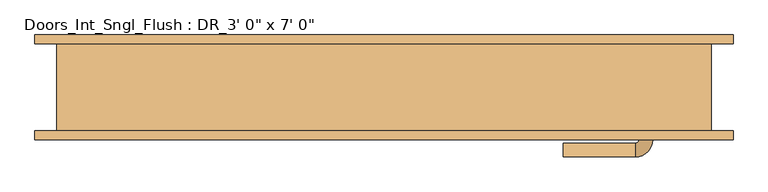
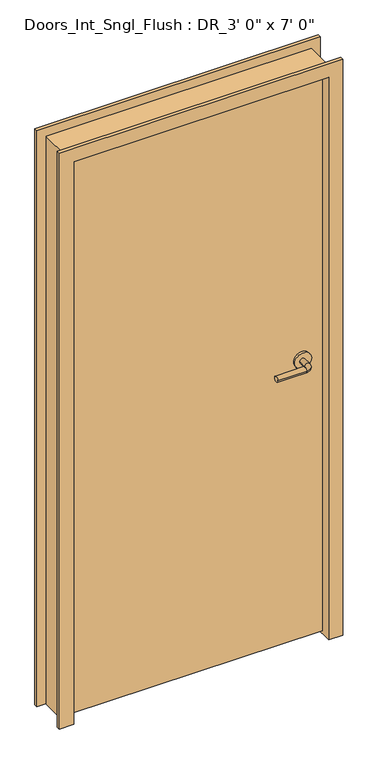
"""IFC4 building model written with IfcOpenShell, lengths in millimetres: door geometry."""

from ifc_helpers import new_model, si_unit, point, frame, frame_2d, origin, place, context, project, spatial, polyline, circle_curve, ellipse_curve, trimmed, segment, composite_curve, outline, extrude, faceted_brep, source, transform, mapped, element, save
from ifc_brep_helpers import plane_surface, cylinder_surface, revolved_surface, advanced_brep


def door_4583cae6(model_context):
    return source(origin(), model_context, "Body", "SolidModel", [
        advanced_brep(
        [(391.0, -46.1, 1066.8), (371.0, -46.1, 1066.8), (391.0, -76.1, 1066.8), (371.0, -76.1, 1066.8), (366.0, -81.1, 1066.8), (366.0, -101.1, 1066.8), (261.0, -101.1, 1066.8), (261.0, -81.1, 1066.8)],
        [
            (0, 1, circle_curve(frame((381.0, -46.1, 1066.8), z_axis=(0.0, 1.0, 0.0), x_axis=(-1.0, 0.0, 0.0)), 10.0)),
            (1, 0, circle_curve(frame((381.0, -46.1, 1066.8), z_axis=(0.0, 1.0, 0.0), x_axis=(-1.0, 0.0, 0.0)), 10.0)),
            (0, 2),
            (2, 3, circle_curve(frame((381.0, -76.1, 1066.8), z_axis=(0.0, 1.0, 0.0), x_axis=(-1.0, 0.0, 0.0)), 10.0)),
            (3, 1),
            (3, 2, circle_curve(frame((381.0, -76.1, 1066.8), z_axis=(0.0, 1.0, 0.0), x_axis=(-1.0, 0.0, 0.0)), 10.0)),
            (4, 3, circle_curve(frame((366.0, -76.1, 1066.8), z_axis=(0.0, 0.0, 1.0), x_axis=(1.0, 0.0, 0.0)), 5.0)),
            (2, 5, circle_curve(frame((366.0, -76.1, 1066.8), z_axis=(0.0, 0.0, -1.0), x_axis=(1.0, 0.0, 0.0)), 25.0)),
            (5, 4, circle_curve(frame((366.0, -91.1, 1066.8), z_axis=(1.0, 0.0, 0.0), x_axis=(0.0, 1.0, 0.0)), 10.0)),
            (4, 5, circle_curve(frame((366.0, -91.1, 1066.8), z_axis=(1.0, 0.0, 0.0), x_axis=(0.0, 1.0, 0.0)), 10.0)),
            (6, 7, circle_curve(frame((261.0, -91.1, 1066.8), z_axis=(-1.0, 0.0, 0.0), x_axis=(0.0, 1.0, 0.0)), 10.0)),
            (7, 6, circle_curve(frame((261.0, -91.1, 1066.8), z_axis=(-1.0, 0.0, 0.0), x_axis=(0.0, 1.0, 0.0)), 10.0)),
            (5, 6),
            (7, 4),
        ],
        [
            plane_surface(frame((381.0, -46.1, 1066.8), z_axis=(0.0, 1.0, 0.0), x_axis=(0.0, 0.0, 1.0))),
            cylinder_surface(frame((381.0, -46.1, 1066.8), z_axis=(0.0, 1.0, 0.0), x_axis=(-1.0, 0.0, 0.0)), 10.0),
            revolved_surface(trimmed(ellipse_curve(frame((381.0, -76.1, 1066.8), z_axis=(0.0, 1.0, 0.0), x_axis=(-1.0, 0.0, 0.0)), 10.0, 10.0), [point((391.0, -76.1, 1066.8))], [point((371.0, -76.1, 1066.8))], True, "CARTESIAN"), (366.0, -76.1, 1066.8), (0.0, 0.0, -1.0)),
            revolved_surface(trimmed(ellipse_curve(frame((381.0, -76.1, 1066.8), z_axis=(0.0, 1.0, 0.0), x_axis=(-1.0, 0.0, 0.0)), 10.0, 10.0), [point((371.0, -76.1, 1066.8))], [point((391.0, -76.1, 1066.8))], True, "CARTESIAN"), (366.0, -76.1, 1066.8), (0.0, 0.0, -1.0)),
            plane_surface(frame((261.0, -91.1, 1066.8), z_axis=(-1.0, 0.0, 0.0), x_axis=(0.0, 0.0, 1.0))),
            cylinder_surface(frame((366.0, -91.1, 1066.8), z_axis=(1.0, 0.0, 0.0), x_axis=(0.0, 1.0, 0.0)), 10.0),
        ],
        [
            (0, [[1, 2]]),
            (1, [[-1, 3, 4, 5]]),
            (1, [[-2, -5, 6, -3]]),
            (2, [[7, -4, 8, 9]]),
            (3, [[-8, -6, -7, 10]]),
            (4, [[11, 12]]),
            (5, [[-9, 13, -12, 14]]),
            (5, [[-10, -14, -11, -13]]),
        ],
    ),
        extrude(outline(composite_curve([segment(trimmed(circle_curve(frame_2d((1066.8, 383.5)), 30.0), [point((1066.8, 413.5))], [point((1066.8, 353.5))], False, "CARTESIAN"), True, "CONTINUOUS"), segment(trimmed(circle_curve(frame_2d((1066.8, 383.5)), 30.0), [point((1066.8, 353.5))], [point((1066.8, 413.5))], False, "CARTESIAN"), True, "CONTINUOUS")], self_intersect=False)), frame((0.0, -46.1, 0.0), z_axis=(0.0, 1.0, 0.0), x_axis=(0.0, 0.0, 1.0)), (0.0, 0.0, 1.0), 8.0),
        advanced_brep(
        [(391.0, 14.35, 1066.8), (371.0, 14.35, 1066.8), (371.0, 44.35, 1066.8), (391.0, 44.35, 1066.8), (366.0, 49.35, 1066.8), (366.0, 69.35, 1066.8), (261.0, 69.35, 1066.8), (261.0, 49.35, 1066.8)],
        [
            (0, 1, circle_curve(frame((381.0, 14.35, 1066.8), z_axis=(0.0, -1.0, 0.0), x_axis=(-1.0, 0.0, 0.0)), 10.0)),
            (1, 0, circle_curve(frame((381.0, 14.35, 1066.8), z_axis=(0.0, -1.0, 0.0), x_axis=(-1.0, 0.0, 0.0)), 10.0)),
            (1, 2),
            (2, 3, circle_curve(frame((381.0, 44.35, 1066.8), z_axis=(0.0, -1.0, 0.0), x_axis=(-1.0, 0.0, 0.0)), 10.0)),
            (3, 0),
            (3, 2, circle_curve(frame((381.0, 44.35, 1066.8), z_axis=(0.0, -1.0, 0.0), x_axis=(-1.0, 0.0, 0.0)), 10.0)),
            (4, 5, circle_curve(frame((366.0, 59.35, 1066.8), z_axis=(1.0, 0.0, 0.0), x_axis=(0.0, -1.0, 0.0)), 10.0)),
            (5, 3, circle_curve(frame((366.0, 44.35, 1066.8), z_axis=(0.0, 0.0, -1.0), x_axis=(1.0, 0.0, 0.0)), 25.0)),
            (2, 4, circle_curve(frame((366.0, 44.35, 1066.8), z_axis=(0.0, 0.0, 1.0), x_axis=(1.0, 0.0, 0.0)), 5.0)),
            (5, 4, circle_curve(frame((366.0, 59.35, 1066.8), z_axis=(1.0, 0.0, 0.0), x_axis=(0.0, -1.0, 0.0)), 10.0)),
            (6, 7, circle_curve(frame((261.0, 59.35, 1066.8), z_axis=(-1.0, 0.0, 0.0), x_axis=(0.0, -1.0, 0.0)), 10.0)),
            (7, 6, circle_curve(frame((261.0, 59.35, 1066.8), z_axis=(-1.0, 0.0, 0.0), x_axis=(0.0, -1.0, 0.0)), 10.0)),
            (4, 7),
            (6, 5),
        ],
        [
            plane_surface(frame((381.0, 14.35, 1066.8), z_axis=(0.0, -1.0, 0.0), x_axis=(0.0, 0.0, 1.0))),
            cylinder_surface(frame((381.0, 14.35, 1066.8), z_axis=(0.0, -1.0, 0.0), x_axis=(-1.0, 0.0, 0.0)), 10.0),
            revolved_surface(trimmed(ellipse_curve(frame((381.0, 44.35, 1066.8), z_axis=(0.0, 1.0, 0.0), x_axis=(-1.0, 0.0, 0.0)), 10.0, 10.0), [point((391.0, 44.35, 1066.8))], [point((371.0, 44.35, 1066.8))], True, "CARTESIAN"), (366.0, 44.35, 1066.8), (0.0, 0.0, -1.0)),
            revolved_surface(trimmed(ellipse_curve(frame((381.0, 44.35, 1066.8), z_axis=(0.0, 1.0, 0.0), x_axis=(-1.0, 0.0, 0.0)), 10.0, 10.0), [point((371.0, 44.35, 1066.8))], [point((391.0, 44.35, 1066.8))], True, "CARTESIAN"), (366.0, 44.35, 1066.8), (0.0, 0.0, -1.0)),
            plane_surface(frame((261.0, 59.35, 1066.8), z_axis=(-1.0, 0.0, 0.0), x_axis=(0.0, 0.0, 1.0))),
            cylinder_surface(frame((366.0, 59.35, 1066.8), z_axis=(1.0, 0.0, 0.0), x_axis=(0.0, -1.0, 0.0)), 10.0),
        ],
        [
            (0, [[1, 2]]),
            (1, [[3, 4, 5, -2]]),
            (1, [[-5, 6, -3, -1]]),
            (2, [[7, 8, -4, 9]]),
            (3, [[10, -9, -6, -8]]),
            (4, [[11, 12]]),
            (5, [[13, -11, 14, -7]]),
            (5, [[-14, -12, -13, -10]]),
        ],
    ),
        extrude(outline(composite_curve([segment(trimmed(circle_curve(frame_2d((1066.8, 383.5)), 30.0), [point((1066.8, 413.5))], [point((1066.8, 353.5))], False, "CARTESIAN"), True, "CONTINUOUS"), segment(trimmed(circle_curve(frame_2d((1066.8, 383.5)), 30.0), [point((1066.8, 353.5))], [point((1066.8, 413.5))], False, "CARTESIAN"), True, "CONTINUOUS")], self_intersect=False)), frame((0.0, 6.35, 0.0), z_axis=(0.0, 1.0, 0.0), x_axis=(0.0, 0.0, 1.0)), (0.0, 0.0, 1.0), 8.0),
        extrude(outline(polyline([(-457.2, -38.1), (-457.2, 6.35), (457.2, 6.35), (457.2, -38.1), (-457.2, -38.1)])), frame((0.0, 0.0, 12.7), z_axis=(0.0, 0.0, 1.0), x_axis=(1.0, 0.0, 0.0)), (0.0, 0.0, 1.0), 2120.9),
        faceted_brep([(-457.2, 76.2, 0.0), (-457.2, -76.2, 0.0), (-508.0, -76.2, 0.0), (-508.0, -63.5, 0.0), (-476.25, -63.5, 0.0), (-476.25, 63.5, 0.0), (-508.0, 63.5, 0.0), (-508.0, 76.2, 0.0), (-508.0, 76.2, 2184.4), (508.0, 76.2, 2184.4), (508.0, 76.2, 0.0), (457.2, 76.2, 0.0), (457.2, 76.2, 2133.6), (-457.2, 76.2, 2133.6), (-508.0, 63.5, 2184.4), (-476.25, 63.5, 2152.65), (476.25, 63.5, 2152.65), (476.25, 63.5, 0.0), (508.0, 63.5, 0.0), (508.0, 63.5, 2184.4), (-476.25, -63.5, 2152.65), (-508.0, -63.5, 2184.4), (508.0, -63.5, 2184.4), (508.0, -63.5, 0.0), (476.25, -63.5, 0.0), (476.25, -63.5, 2152.65), (-508.0, -76.2, 2184.4), (-457.2, -76.2, 2133.6), (457.2, -76.2, 2133.6), (457.2, -76.2, 0.0), (508.0, -76.2, 0.0), (508.0, -76.2, 2184.4)], [[[0, 1, 2, 3, 4, 5, 6, 7]], [[7, 8, 9, 10, 11, 12, 13, 0]], [[6, 14, 8, 7]], [[5, 15, 16, 17, 18, 19, 14, 6]], [[4, 20, 15, 5]], [[3, 21, 22, 23, 24, 25, 20, 4]], [[2, 26, 21, 3]], [[1, 27, 28, 29, 30, 31, 26, 2]], [[0, 13, 27, 1]], [[12, 11, 29, 28]], [[11, 10, 18, 17, 24, 23, 30, 29]], [[19, 18, 10, 9]], [[31, 30, 23, 22]], [[25, 24, 17, 16]], [[20, 25, 16, 15]], [[13, 12, 28, 27]], [[14, 19, 9, 8]], [[26, 31, 22, 21]]]),
    ])


if __name__ == "__main__":
    model = new_model("IFC4")
    model_context = context("Model", 3, world=origin())
    ifc_project = project(units=[si_unit("LENGTHUNIT", "METRE", prefix="MILLI")], contexts=[model_context])
    site = spatial("IfcSite", under=ifc_project)
    building = spatial("IfcBuilding", under=site)
    placement = place(None, origin())
    door_shape = door_4583cae6(model_context)
    element("IfcDoor", 1, ObjectType="Doors_Int_Sngl_Flush : DR_3' 0\" x 7' 0\"", at=placement, inside=building, context=model_context, shape_type="MappedRepresentation", body=[
        mapped(door_shape, transform((0.0, 0.0, 0.0), x_axis=(1.0, 0.0, 0.0), y_axis=(0.0, 1.0, 0.0), z_axis=(0.0, 0.0, 1.0))),
    ])
    save(model, "model.ifc")
